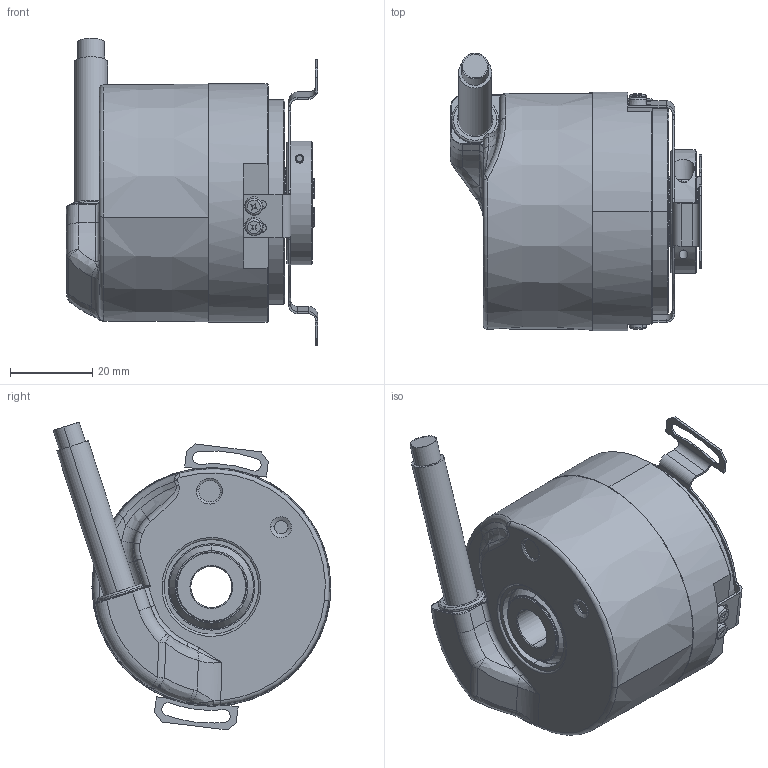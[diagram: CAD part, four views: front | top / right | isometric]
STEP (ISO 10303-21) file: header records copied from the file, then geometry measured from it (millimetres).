
FILE_DESCRIPTION (( 'STEP AP203' ), '1' );
FILE_NAME ('8.5834.53XE.XXXX.STEP', '2013-12-04T08:39:07', ( 'LauferA' ), ( 'Microsoft' ), 'SwSTEP 2.0', 'SolidWorks 2013', '' );
FILE_SCHEMA (( 'CONFIG_CONTROL_DESIGN' ));
Length unit declared in the file: millimetre
Products named in the file (1): 8.5834.53XE.XXXX
Bounding box: 60.97 x 67.42 x 74.75 mm (x, y, z)
Volume: 71325.6 mm3; surface area: 49051.1 mm2
Topology: 16 solids, 17 shells, 1769 faces, 4277 edges, 2557 vertices
Faces by surface type: cylinder 573, plane 425, bspline 361, cone 186, torus 170, sphere 54
Entity records: 63295 total; most frequent: CARTESIAN_POINT 25132, ORIENTED_EDGE 8314, DIRECTION 7576, EDGE_CURVE 4157, AXIS2_PLACEMENT_3D 3100, VERTEX_POINT 2521, EDGE_LOOP 1944, FACE_OUTER_BOUND 1769
